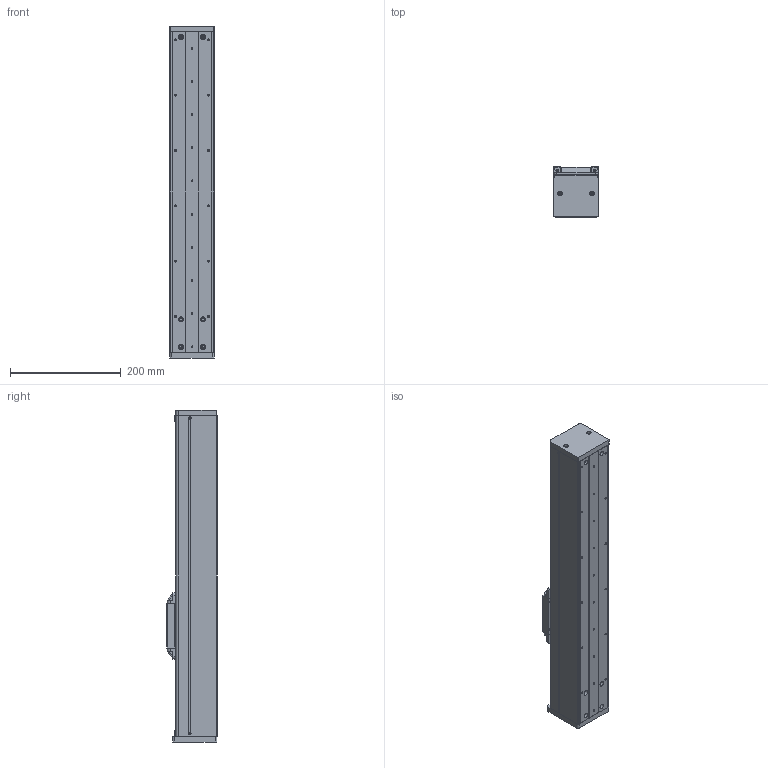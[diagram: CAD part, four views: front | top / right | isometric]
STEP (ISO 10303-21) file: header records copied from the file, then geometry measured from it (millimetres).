
FILE_DESCRIPTION (( 'STEP AP214' ), '1' );
FILE_NAME ('CF80-16-C-350-FW60.STEP', '2016-02-19T02:33:57', ( '' ), ( '' ), 'SwSTEP 2.0', 'SolidWorks 2015', '' );
FILE_SCHEMA (( 'AUTOMOTIVE_DESIGN' ));
Length unit declared in the file: millimetre
Products named in the file (13): CF80盓傅釱; 賑雄輸; EGW15CA賑輸; 賑雄輸裔啣; CFN80墙板; CFN80菁釱; CF80詩湍; CF80耜啣; 詩湍揤啣; CFN80嘐隅釱; CF80-60萇儂假蚾啣; EGR15絳寢; CF80-16-C-350-FW60
Assembly tree (14 placements, depth 2):
  CF80-16-C-350-FW60
    CFN80菁釱
    CFN80墙板  x2
    EGW15CA賑輸
    EGR15絳寢
    CF80盓傅釱
    賑雄輸
    CFN80嘐隅釱
    賑雄輸裔啣
    CF80-60萇儂假蚾啣
    CF80耜啣
    CF80詩湍
    詩湍揤啣  x2
Bounding box: 80.02 x 91 x 600 mm (x, y, z)
Volume: 1347245 mm3; surface area: 606483.3 mm2
Topology: 14 solids, 14 shells, 725 faces, 2006 edges, 1328 vertices
Faces by surface type: cylinder 361, plane 356, cone 8
Entity records: 24027 total; most frequent: CARTESIAN_POINT 5615, DIRECTION 3693, ORIENTED_EDGE 3662, EDGE_CURVE 1831, AXIS2_PLACEMENT_3D 1306, VERTEX_POINT 1214, VECTOR 1081, LINE 1081
